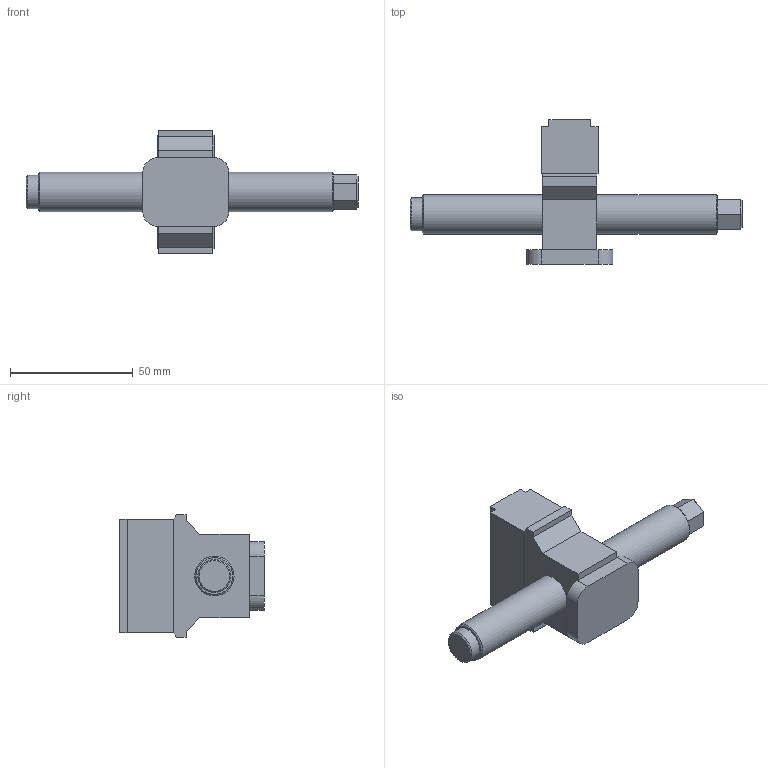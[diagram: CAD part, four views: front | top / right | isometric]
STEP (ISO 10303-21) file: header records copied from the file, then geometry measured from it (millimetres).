
FILE_DESCRIPTION (( 'STEP AP214' ), '1' );
FILE_NAME ('48120-TG-4617.STEP', '2020-03-24T14:36:19', ( '' ), ( '' ), 'SwSTEP 2.0', 'SolidWorks 2019', '' );
FILE_SCHEMA (( 'AUTOMOTIVE_DESIGN' ));
Length unit declared in the file: millimetre
Products named in the file (1): 48120-TG-4617
Bounding box: 135 x 58.8 x 50 mm (x, y, z)
Volume: 74981.2 mm3; surface area: 15805.8 mm2
Topology: 1 solids, 1 shells, 71 faces, 171 edges, 107 vertices
Faces by surface type: plane 61, cylinder 7, cone 3
Full cylindrical faces by diameter (mm): 13.5 x1, 16 x2
Entity records: 2506 total; most frequent: CARTESIAN_POINT 340, ORIENTED_EDGE 326, DIRECTION 324, EDGE_CURVE 163, LINE 146, VECTOR 146, VERTEX_POINT 105, AXIS2_PLACEMENT_3D 89
